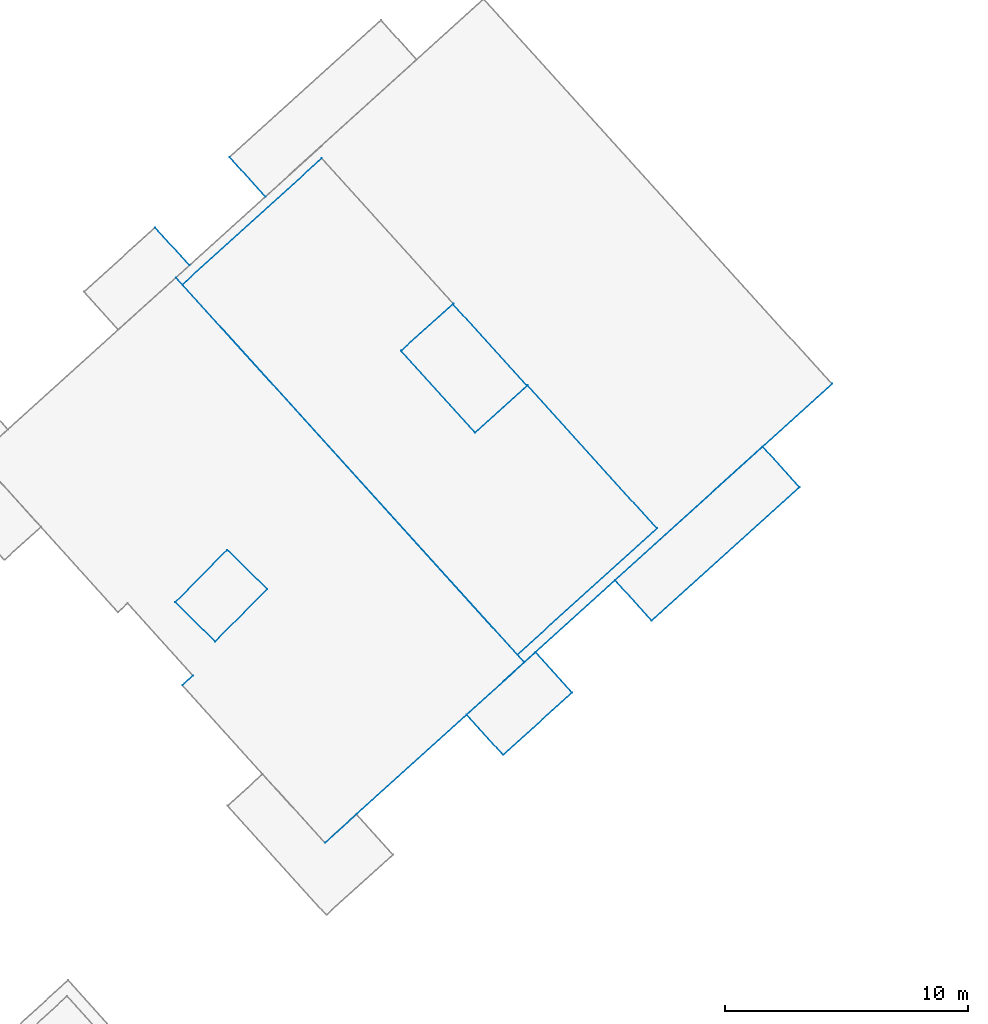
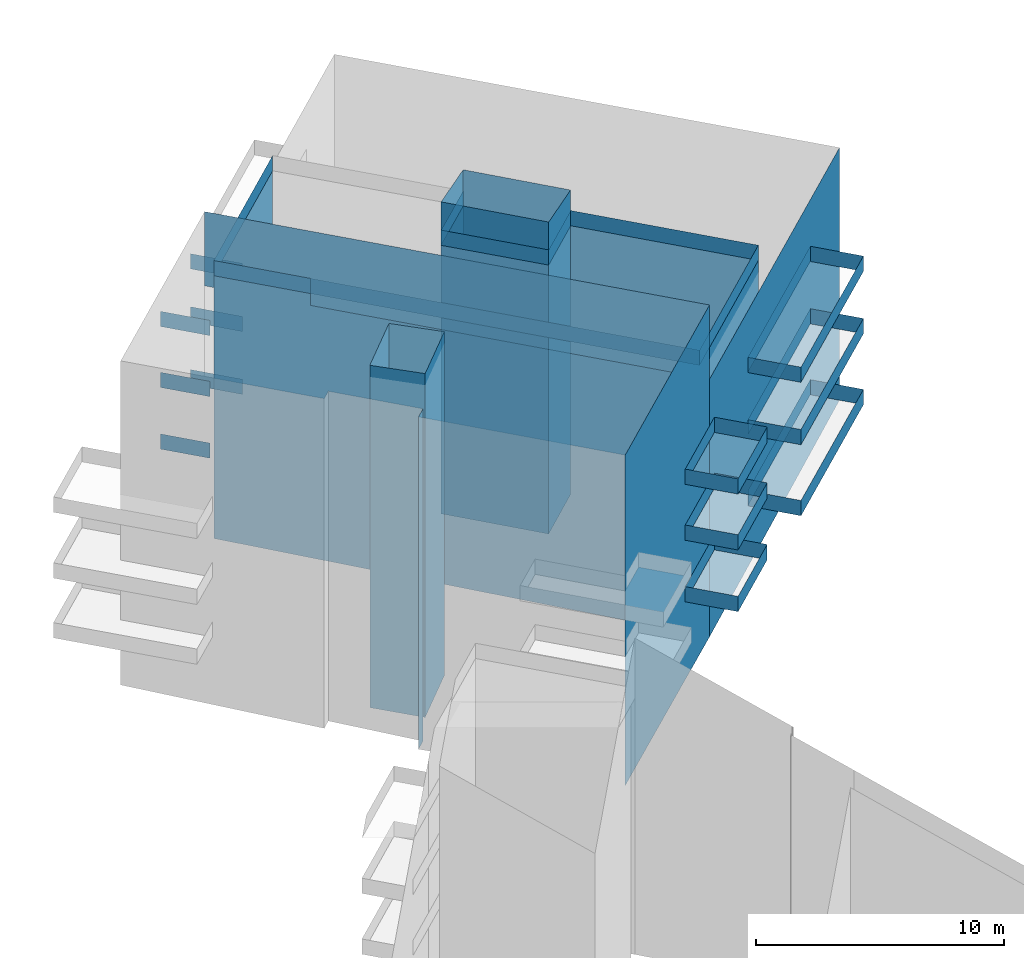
# Not in any storey, part 28 of 136: 93 walls.
"""IFC4 building model written with IfcOpenShell, lengths in metres."""

import ifcopenshell
import ifcopenshell.guid

model = None  # the IFC model being written
_history = None  # IfcOwnerHistory: only IFC2X3 demands one
_inside = {}  # id of a spatial element -> (the spatial element, [elements in it])
_under = {}  # id of a project, library or spatial element -> (it, [spatial elements below it])
_declared = {}  # id of a project -> (the project, [libraries it declares])
_typed = {}  # id of a type object -> (the type object, [elements of that type])
_made_of = {}  # id of a material, layer set ... -> (it, [elements and type objects made of it])


def new_model(schema):
    """Start an empty IFC model of exactly this schema.

    Asked for "IFC4X3", IfcOpenShell would pick the latest addendum, in which some entities
    have other attributes; the version numbers below select the first issue.
    IFC2X3 requires an IfcOwnerHistory on every rooted entity: one is made here for all.
    """
    global model, _history
    if schema == "IFC4X3":
        model = ifcopenshell.file(schema_version=(4, 3, 0, 0))
    else:
        model = ifcopenshell.file(schema=schema)
    _inside.clear()
    _under.clear()
    _declared.clear()
    _typed.clear()
    _made_of.clear()
    _history = None
    if model.schema == "IFC2X3":
        org = make("IfcOrganization", Name="unknown")
        user = make(
            "IfcPersonAndOrganization",
            ThePerson=make("IfcPerson", FamilyName="unknown"),
            TheOrganization=org,
        )
        app = make(
            "IfcApplication",
            ApplicationDeveloper=org,
            Version="unknown",
            ApplicationFullName="unknown",
            ApplicationIdentifier="unknown",
        )
        _history = make(
            "IfcOwnerHistory",
            OwningUser=user,
            OwningApplication=app,
            ChangeAction="ADDED",
            CreationDate=0,
        )
    return model


def make(cls, **values):
    """One entity of the class cls with the attributes given. An attribute that is None is left unset."""
    return model.create_entity(
        cls, **{name: value for name, value in values.items() if value is not None}
    )


def entity(cls, *values):
    """Any entity or typed value of the class cls, its attributes in the order of the schema. None: left unset."""
    e = model.create_entity(cls)
    for i, value in enumerate(values):
        if value is not None:
            e[i] = value
    return e


def rooted(cls, **values):
    """An entity with a GlobalId (a new one), such as an element, a storey or a relation."""
    return make(cls, GlobalId=ifcopenshell.guid.new(), OwnerHistory=_history, **values)


def si_unit(unit_type, name, prefix=None):
    """IfcSIUnit, for example si_unit("LENGTHUNIT", "METRE", prefix="MILLI")."""
    return make("IfcSIUnit", UnitType=unit_type, Prefix=prefix, Name=name)


def converted_unit(unit_type, name, factor, base, dimensions=None, offset=None):
    """IfcConversionBasedUnit, such as the inch: factor (a typed value) times the base unit."""
    return make(
        "IfcConversionBasedUnit"
        if offset is None
        else "IfcConversionBasedUnitWithOffset",
        ConversionOffset=offset,
        Dimensions=None
        if dimensions is None
        else entity("IfcDimensionalExponents", *dimensions),
        UnitType=unit_type,
        Name=name,
        ConversionFactor=make(
            "IfcMeasureWithUnit", ValueComponent=factor, UnitComponent=base
        ),
    )


def assignment(units):
    """IfcUnitAssignment: the units of a project."""
    return None if units is None else make("IfcUnitAssignment", Units=units)


def point(xyz):
    """IfcCartesianPoint."""
    return None if xyz is None else make("IfcCartesianPoint", Coordinates=xyz)


def direction(xyz):
    """IfcDirection."""
    return None if xyz is None else make("IfcDirection", DirectionRatios=xyz)


def frame(location, z_axis=None, x_axis=None):
    """IfcAxis2Placement3D, a coordinate frame: its origin and axes. An axis left out is left unset."""
    return make(
        "IfcAxis2Placement3D",
        Location=point(location),
        Axis=direction(z_axis),
        RefDirection=direction(x_axis),
    )


def origin():
    """The frame at (0, 0, 0) with its axes left unset."""
    return frame((0.0, 0.0, 0.0))


def place(relative_to, where):
    """IfcLocalPlacement: puts the frame where relative to a parent placement (None: the world)."""
    return make(
        "IfcLocalPlacement", PlacementRelTo=relative_to, RelativePlacement=where
    )


def context(
    kind, dimensions, precision=None, world=None, true_north=None, identifier=None
):
    """IfcGeometricRepresentationContext, for example the 3D "Model" context."""
    return make(
        "IfcGeometricRepresentationContext",
        ContextIdentifier=identifier,
        ContextType=kind,
        CoordinateSpaceDimension=dimensions,
        Precision=precision,
        WorldCoordinateSystem=world,
        TrueNorth=true_north,
    )


def subcontext(parent, identifier, kind, view, scale=None):
    """IfcGeometricRepresentationSubContext, for example "Body" below "Model"."""
    return make(
        "IfcGeometricRepresentationSubContext",
        ContextIdentifier=identifier,
        ContextType=kind,
        ParentContext=parent,
        TargetScale=scale,
        TargetView=view,
    )


def project(units=None, contexts=None):
    """IfcProject with its units and contexts."""
    return rooted(
        "IfcProject",
        Name="project",
        RepresentationContexts=contexts,
        UnitsInContext=assignment(units),
    )


def spatial(cls, under=None, at=None, **own):
    """A site, building, storey or space (cls), placed at a placement, below another one or the project."""
    s = rooted(cls, ObjectPlacement=at, **own)
    if under is not None:
        _under.setdefault(under.id(), (under, []))[1].append(s)
    return s


def faces_of(points, faces, orient=None, outer=None):
    """IfcFace entities. A face is a list of loops; a loop is a list of indices into points, from 0.

    orient and outer hold one flag for each loop. By default every Orientation is true, the
    first loop of a face is its IfcFaceOuterBound and the others are IfcFaceBound.
    """
    made = []
    for i, loops in enumerate(faces):
        bounds = []
        for j, loop in enumerate(loops):
            is_outer = j == 0 if outer is None else outer[i][j]
            bounds.append(
                make(
                    "IfcFaceOuterBound" if is_outer else "IfcFaceBound",
                    Bound=make("IfcPolyLoop", Polygon=[points[k] for k in loop]),
                    Orientation=True if orient is None else orient[i][j],
                )
            )
        made.append(make("IfcFace", Bounds=bounds))
    return made


def face_set(faces, orient=None, outer=None):
    """The faces of one IfcConnectedFaceSet. surface_model builds it on its shared points."""
    return ("IfcConnectedFaceSet", faces, orient, outer)


def surface_model(cls, points, shells):
    """IfcFaceBasedSurfaceModel or IfcShellBasedSurfaceModel (cls): surfaces that need not close."""
    shared = [point(p) for p in points]
    made = [make(c, CfsFaces=faces_of(shared, fs, o, b)) for c, fs, o, b in shells]
    if cls == "IfcFaceBasedSurfaceModel":
        return make(cls, FbsmFaces=made)
    return make(cls, SbsmBoundary=made)


def shape(context_of_items, identifier, shape_type, items):
    """IfcShapeRepresentation: the items that make up one representation, for example the "Body"."""
    return make(
        "IfcShapeRepresentation",
        ContextOfItems=context_of_items,
        RepresentationIdentifier=identifier,
        RepresentationType=shape_type,
        Items=items,
    )


def made_of(thing, what):
    """Note that an element or type object is made of a material, layer set ...; save() writes the relation."""
    if what is not None:
        _made_of.setdefault(what.id(), (what, []))[1].append(thing)
    return thing


def element(
    cls,
    number,
    at=None,
    inside=None,
    cuts=None,
    type_object=None,
    material=None,
    context=None,
    identifier="Body",
    shape_type=None,
    held_by="IfcProductDefinitionShape",
    body=None,
    shapes=None,
    **own,
):
    """One element of the class cls, such as IfcWall. Its Tag is "e" and its number.

    at: its placement. inside: the storey or other place that contains it. cuts: it is an
    opening in that element (IfcRelVoidsElement). A single representation is given by context,
    identifier, shape_type and body (its items); several are given by shapes. held_by: the class
    of the entity that holds the representations. save() writes the other relations.
    """
    e = rooted(cls, Tag="e%d" % number, ObjectPlacement=at, **own)
    if body is not None:
        shapes = [shape(context, identifier, shape_type, body)]
    if shapes is not None:
        e.Representation = make(held_by, Representations=shapes)
    if inside is not None:
        _inside.setdefault(inside.id(), (inside, []))[1].append(e)
    if cuts is not None:
        rooted(
            "IfcRelVoidsElement", RelatingBuildingElement=cuts, RelatedOpeningElement=e
        )
    if type_object is not None:
        _typed.setdefault(type_object.id(), (type_object, []))[1].append(e)
    return made_of(e, material)


def aggregate(whole, parts):
    """IfcRelAggregates: a whole, such as a stair, and the parts it consists of."""
    return rooted("IfcRelAggregates", RelatingObject=whole, RelatedObjects=parts)


def save(model, path):
    """Write the relations noted so far, then the file.

    IfcRelAggregates (storeys below a building ...), IfcRelContainedInSpatialStructure (elements
    in a storey), IfcRelDefinesByType, IfcRelAssociatesMaterial and IfcRelDeclares: one each for
    every whole, place, type object, material and project.
    """
    for whole, parts in _under.values():
        aggregate(whole, parts)
    for where, things in _inside.values():
        rooted(
            "IfcRelContainedInSpatialStructure",
            RelatedElements=things,
            RelatingStructure=where,
        )
    for kind, things in _typed.values():
        rooted("IfcRelDefinesByType", RelatedObjects=things, RelatingType=kind)
    for what, things in _made_of.values():
        rooted("IfcRelAssociatesMaterial", RelatedObjects=things, RelatingMaterial=what)
    for by, libraries in _declared.values():
        rooted("IfcRelDeclares", RelatingContext=by, RelatedDefinitions=libraries)
    model.write(path)


model = new_model("IFC4")

# Units and contexts
model_context = context("Model", 3, precision=1e-05, world=origin())
body_context = subcontext(model_context, "Body", "Model", "MODEL_VIEW")
ifc_project = project(units=[converted_unit("PLANEANGLEUNIT", "DEGREE", entity("IfcRatioMeasure", 0.0174532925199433), si_unit("PLANEANGLEUNIT", "RADIAN"), dimensions=[0, 0, 0, 0, 0, 0, 0]), si_unit("AREAUNIT", "SQUARE_METRE"), si_unit("LENGTHUNIT", "METRE")], contexts=[model_context])

# Site, building
site_placement = place(None, origin())
site = spatial("IfcSite", under=ifc_project, at=site_placement, Name="_site")
building_placement = place(site_placement, origin())
building = spatial("IfcBuilding", under=site, at=building_placement, Name="_building")

# Walls
wall_1_placement = place(building_placement, origin())
element("IfcWall", 1, at=wall_1_placement, inside=building, Name="Wall", PredefinedType="NOTDEFINED", context=body_context, shape_type="SurfaceModel", body=[
    surface_model("IfcFaceBasedSurfaceModel", [(84.32, 27.95, 41.92), (82.82, 29.61, 41.92), (82.82, 29.61, 42.67), (84.32, 27.95, 42.67)], [face_set([[[0, 1, 2, 3]]])]),
])
wall_2_placement = place(building_placement, origin())
element("IfcWall", 2, at=wall_2_placement, inside=building, Name="Wall", PredefinedType="NOTDEFINED", context=body_context, shape_type="SurfaceModel", body=[
    surface_model("IfcFaceBasedSurfaceModel", [(87.16, 30.521, 41.92), (84.32, 27.95, 41.92), (84.32, 27.95, 42.67), (87.16, 30.521, 42.67)], [face_set([[[0, 1, 2, 3]]])]),
])
wall_3_placement = place(building_placement, origin())
element("IfcWall", 3, at=wall_3_placement, inside=building, Name="Wall", PredefinedType="NOTDEFINED", context=body_context, shape_type="SurfaceModel", body=[
    surface_model("IfcFaceBasedSurfaceModel", [(85.66, 32.18, 41.92), (87.16, 30.521, 41.92), (87.16, 30.521, 42.67), (85.66, 32.18, 42.67)], [face_set([[[0, 1, 2, 3]]])]),
])
wall_4_placement = place(building_placement, origin())
element("IfcWall", 4, at=wall_4_placement, inside=building, Name="Wall", PredefinedType="NOTDEFINED", context=body_context, shape_type="SurfaceModel", body=[
    surface_model("IfcFaceBasedSurfaceModel", [(82.82, 29.61, 41.92), (85.66, 32.18, 41.92), (85.66, 32.18, 42.67), (82.82, 29.61, 42.67)], [face_set([[[0, 1, 2, 3]]])]),
])
wall_5_placement = place(building_placement, origin())
element("IfcWall", 5, at=wall_5_placement, inside=building, Name="Wall", PredefinedType="NOTDEFINED", context=body_context, shape_type="SurfaceModel", body=[
    surface_model("IfcFaceBasedSurfaceModel", [(84.32, 27.95, 41.92), (82.82, 29.61, 41.92), (82.82, 29.61, 42.67), (84.32, 27.95, 42.67)], [face_set([[[0, 1, 2, 3]]])]),
])
wall_6_placement = place(building_placement, origin())
element("IfcWall", 6, at=wall_6_placement, inside=building, Name="Wall", PredefinedType="NOTDEFINED", context=body_context, shape_type="SurfaceModel", body=[
    surface_model("IfcFaceBasedSurfaceModel", [(87.16, 30.521, 41.92), (84.32, 27.95, 41.92), (84.32, 27.95, 42.67), (87.16, 30.521, 42.67)], [face_set([[[0, 1, 2, 3]]])]),
])
wall_7_placement = place(building_placement, origin())
element("IfcWall", 7, at=wall_7_placement, inside=building, Name="Wall", PredefinedType="NOTDEFINED", context=body_context, shape_type="SurfaceModel", body=[
    surface_model("IfcFaceBasedSurfaceModel", [(85.66, 32.18, 41.92), (87.16, 30.521, 41.92), (87.16, 30.521, 42.67), (85.66, 32.18, 42.67)], [face_set([[[0, 1, 2, 3]]])]),
])
wall_8_placement = place(building_placement, origin())
element("IfcWall", 8, at=wall_8_placement, inside=building, Name="Wall", PredefinedType="NOTDEFINED", context=body_context, shape_type="SurfaceModel", body=[
    surface_model("IfcFaceBasedSurfaceModel", [(84.91, 32.08, 51.32), (71.11, 47.32, 51.32), (71.11, 47.32, 52.07), (84.91, 32.08, 52.07)], [face_set([[[0, 1, 2, 3]]])]),
])
wall_9_placement = place(building_placement, origin())
element("IfcWall", 9, at=wall_9_placement, inside=building, Name="Wall", PredefinedType="NOTDEFINED", context=body_context, shape_type="SurfaceModel", body=[
    surface_model("IfcFaceBasedSurfaceModel", [(90.65, 37.28, 51.32), (84.91, 32.08, 51.32), (84.91, 32.08, 52.07), (90.65, 37.28, 52.07)], [face_set([[[0, 1, 2, 3]]])]),
])
wall_10_placement = place(building_placement, origin())
element("IfcWall", 10, at=wall_10_placement, inside=building, Name="Wall", PredefinedType="NOTDEFINED", context=body_context, shape_type="SurfaceModel", body=[
    surface_model("IfcFaceBasedSurfaceModel", [(85.32, 43.17, 51.32), (90.65, 37.28, 51.32), (90.65, 37.28, 52.07), (85.32, 43.17, 52.07)], [face_set([[[0, 1, 2, 3]]])]),
])
wall_11_placement = place(building_placement, origin())
element("IfcWall", 11, at=wall_11_placement, inside=building, Name="Wall", PredefinedType="NOTDEFINED", context=body_context, shape_type="SurfaceModel", body=[
    surface_model("IfcFaceBasedSurfaceModel", [(83.17, 41.22, 51.32), (85.32, 43.17, 51.32), (85.32, 43.17, 52.07), (83.17, 41.22, 52.07)], [face_set([[[0, 1, 2, 3]]])]),
])
wall_12_placement = place(building_placement, origin())
element("IfcWall", 12, at=wall_12_placement, inside=building, Name="Wall", PredefinedType="NOTDEFINED", context=body_context, shape_type="SurfaceModel", body=[
    surface_model("IfcFaceBasedSurfaceModel", [(80.11, 44.59, 51.32), (83.17, 41.22, 51.32), (83.17, 41.22, 52.07), (80.11, 44.59, 52.07)], [face_set([[[0, 1, 2, 3]]])]),
])
wall_13_placement = place(building_placement, origin())
element("IfcWall", 13, at=wall_13_placement, inside=building, Name="Wall", PredefinedType="NOTDEFINED", context=body_context, shape_type="SurfaceModel", body=[
    surface_model("IfcFaceBasedSurfaceModel", [(82.27, 46.54, 51.32), (80.11, 44.59, 51.32), (80.11, 44.59, 52.07), (82.27, 46.54, 52.07)], [face_set([[[0, 1, 2, 3]]])]),
])
wall_14_placement = place(building_placement, origin())
element("IfcWall", 14, at=wall_14_placement, inside=building, Name="Wall", PredefinedType="NOTDEFINED", context=body_context, shape_type="SurfaceModel", body=[
    surface_model("IfcFaceBasedSurfaceModel", [(71.11, 47.32, 51.32), (76.85, 52.521, 51.32), (76.85, 52.521, 52.07), (71.11, 47.32, 52.07)], [face_set([[[0, 1, 2, 3]]])]),
])
wall_15_placement = place(building_placement, origin())
element("IfcWall", 15, at=wall_15_placement, inside=building, Name="Wall", PredefinedType="NOTDEFINED", context=body_context, shape_type="SurfaceModel", body=[
    surface_model("IfcFaceBasedSurfaceModel", [(84.91, 32.08, 51.32), (71.11, 47.32, 51.32), (71.11, 47.32, 52.07), (84.91, 32.08, 52.07)], [face_set([[[0, 1, 2, 3]]])]),
])
wall_16_placement = place(building_placement, origin())
element("IfcWall", 16, at=wall_16_placement, inside=building, Name="Wall", PredefinedType="NOTDEFINED", context=body_context, shape_type="SurfaceModel", body=[
    surface_model("IfcFaceBasedSurfaceModel", [(90.65, 37.28, 51.32), (84.91, 32.08, 51.32), (84.91, 32.08, 52.07), (90.65, 37.28, 52.07)], [face_set([[[0, 1, 2, 3]]])]),
])
wall_17_placement = place(building_placement, origin())
element("IfcWall", 17, at=wall_17_placement, inside=building, Name="Wall", PredefinedType="NOTDEFINED", context=body_context, shape_type="SurfaceModel", body=[
    surface_model("IfcFaceBasedSurfaceModel", [(85.32, 43.17, 51.32), (90.65, 37.28, 51.32), (90.65, 37.28, 52.07), (85.32, 43.17, 52.07)], [face_set([[[0, 1, 2, 3]]])]),
])
wall_18_placement = place(building_placement, origin())
element("IfcWall", 18, at=wall_18_placement, inside=building, Name="Wall", PredefinedType="NOTDEFINED", context=body_context, shape_type="SurfaceModel", body=[
    surface_model("IfcFaceBasedSurfaceModel", [(83.17, 41.22, 51.32), (85.32, 43.17, 51.32), (85.32, 43.17, 52.07), (83.17, 41.22, 52.07)], [face_set([[[0, 1, 2, 3]]])]),
])
wall_19_placement = place(building_placement, origin())
element("IfcWall", 19, at=wall_19_placement, inside=building, Name="Wall", PredefinedType="NOTDEFINED", context=body_context, shape_type="SurfaceModel", body=[
    surface_model("IfcFaceBasedSurfaceModel", [(80.11, 44.59, 51.32), (83.17, 41.22, 51.32), (83.17, 41.22, 52.07), (80.11, 44.59, 52.07)], [face_set([[[0, 1, 2, 3]]])]),
])
wall_20_placement = place(building_placement, origin())
element("IfcWall", 20, at=wall_20_placement, inside=building, Name="Wall", PredefinedType="NOTDEFINED", context=body_context, shape_type="SurfaceModel", body=[
    surface_model("IfcFaceBasedSurfaceModel", [(82.27, 46.54, 51.32), (80.11, 44.59, 51.32), (80.11, 44.59, 52.07), (82.27, 46.54, 52.07)], [face_set([[[0, 1, 2, 3]]])]),
])
wall_21_placement = place(building_placement, origin())
element("IfcWall", 21, at=wall_21_placement, inside=building, Name="Wall", PredefinedType="NOTDEFINED", context=body_context, shape_type="SurfaceModel", body=[
    surface_model("IfcFaceBasedSurfaceModel", [(85.3, 43.15, 53.1), (83.17, 41.22, 53.44), (83.17, 41.22, 38.093), (85.3, 43.15, 38.115)], [face_set([[[0, 1, 2, 3]]])]),
])
wall_22_placement = place(building_placement, origin())
element("IfcWall", 22, at=wall_22_placement, inside=building, Name="Wall", PredefinedType="NOTDEFINED", context=body_context, shape_type="SurfaceModel", body=[
    surface_model("IfcFaceBasedSurfaceModel", [(71.11, 47.32, 51.32), (76.85, 52.521, 51.32), (76.85, 52.521, 52.07), (71.11, 47.32, 52.07)], [face_set([[[0, 1, 2, 3]]])]),
])
wall_23_placement = place(building_placement, origin())
element("IfcWall", 23, at=wall_23_placement, inside=building, Name="Wall", PredefinedType="NOTDEFINED", context=body_context, shape_type="SurfaceModel", body=[
    surface_model("IfcFaceBasedSurfaceModel", [(85.32, 43.17, 51.32), (90.65, 37.28, 51.32), (90.65, 37.28, 38.17), (85.32, 43.17, 38.115)], [face_set([[[0, 1, 2, 3]]])]),
])
wall_24_placement = place(building_placement, origin())
element("IfcWall", 24, at=wall_24_placement, inside=building, Name="Wall", PredefinedType="NOTDEFINED", context=body_context, shape_type="SurfaceModel", body=[
    surface_model("IfcFaceBasedSurfaceModel", [(80.11, 44.59, 51.32), (83.17, 41.22, 51.32), (83.17, 41.22, 38.093), (80.11, 44.59, 38.117)], [face_set([[[0, 1, 2, 3]]])]),
])
wall_25_placement = place(building_placement, origin())
element("IfcWall", 25, at=wall_25_placement, inside=building, Name="Wall", PredefinedType="NOTDEFINED", context=body_context, shape_type="SurfaceModel", body=[
    surface_model("IfcFaceBasedSurfaceModel", [(72.45, 32.61, 54.96), (70.81, 34.23, 54.96), (70.81, 34.23, 38.119), (72.45, 32.61, 38.043)], [face_set([[[0, 1, 2, 3]]])]),
])
for number, where, name in (
    (26, (0.0, 0.0, 0.0), "Wall"),
    (27, (0.0, 0.0, 0.0), "Wall"),
):
    element("IfcWall", number, at=place(building_placement, frame(where)), inside=building, Name=name, PredefinedType="NOTDEFINED", context=body_context, shape_type="SurfaceModel", body=[
        surface_model("IfcFaceBasedSurfaceModel", [(74.53, 50.94, 47.79), (73.06, 52.57, 47.79), (73.06, 52.57, 48.54), (74.53, 50.94, 48.54)], [face_set([[[0, 1, 2, 3]]])]),
    ])
for number, where, name in (
    (28, (0.0, 0.0, 0.0), "Wall"),
    (29, (0.0, 0.0, 0.0), "Wall"),
):
    element("IfcWall", number, at=place(building_placement, frame(where)), inside=building, Name=name, PredefinedType="NOTDEFINED", context=body_context, shape_type="SurfaceModel", body=[
        surface_model("IfcFaceBasedSurfaceModel", [(69.99, 49.67, 41.76), (71.4, 48.11, 41.76), (71.4, 48.11, 42.51), (69.99, 49.67, 42.51)], [face_set([[[0, 1, 2, 3]]])]),
    ])
wall_26_placement = place(building_placement, origin())
element("IfcWall", 30, at=wall_26_placement, inside=building, Name="Wall", PredefinedType="NOTDEFINED", context=body_context, shape_type="SurfaceModel", body=[
    surface_model("IfcFaceBasedSurfaceModel", [(82.82, 29.61, 44.95), (85.66, 32.18, 44.95), (85.66, 32.18, 45.7), (82.82, 29.61, 45.7)], [face_set([[[0, 1, 2, 3]]])]),
])
wall_27_placement = place(building_placement, origin())
element("IfcWall", 31, at=wall_27_placement, inside=building, Name="Wall", PredefinedType="NOTDEFINED", context=body_context, shape_type="SurfaceModel", body=[
    surface_model("IfcFaceBasedSurfaceModel", [(84.32, 27.95, 44.95), (82.82, 29.61, 44.95), (82.82, 29.61, 45.7), (84.32, 27.95, 45.7)], [face_set([[[0, 1, 2, 3]]])]),
])
wall_28_placement = place(building_placement, origin())
element("IfcWall", 32, at=wall_28_placement, inside=building, Name="Wall", PredefinedType="NOTDEFINED", context=body_context, shape_type="SurfaceModel", body=[
    surface_model("IfcFaceBasedSurfaceModel", [(87.16, 30.521, 44.95), (84.32, 27.95, 44.95), (84.32, 27.95, 45.7), (87.16, 30.521, 45.7)], [face_set([[[0, 1, 2, 3]]])]),
])
wall_29_placement = place(building_placement, origin())
element("IfcWall", 33, at=wall_29_placement, inside=building, Name="Wall", PredefinedType="NOTDEFINED", context=body_context, shape_type="SurfaceModel", body=[
    surface_model("IfcFaceBasedSurfaceModel", [(85.66, 32.18, 44.95), (87.16, 30.521, 44.95), (87.16, 30.521, 45.7), (85.66, 32.18, 45.7)], [face_set([[[0, 1, 2, 3]]])]),
])
wall_30_placement = place(building_placement, origin())
element("IfcWall", 34, at=wall_30_placement, inside=building, Name="Wall", PredefinedType="NOTDEFINED", context=body_context, shape_type="SurfaceModel", body=[
    surface_model("IfcFaceBasedSurfaceModel", [(82.82, 29.61, 44.95), (85.66, 32.18, 44.95), (85.66, 32.18, 45.7), (82.82, 29.61, 45.7)], [face_set([[[0, 1, 2, 3]]])]),
])
wall_31_placement = place(building_placement, origin())
element("IfcWall", 35, at=wall_31_placement, inside=building, Name="Wall", PredefinedType="NOTDEFINED", context=body_context, shape_type="SurfaceModel", body=[
    surface_model("IfcFaceBasedSurfaceModel", [(84.32, 27.95, 44.95), (82.82, 29.61, 44.95), (82.82, 29.61, 45.7), (84.32, 27.95, 45.7)], [face_set([[[0, 1, 2, 3]]])]),
])
wall_32_placement = place(building_placement, origin())
element("IfcWall", 36, at=wall_32_placement, inside=building, Name="Wall", PredefinedType="NOTDEFINED", context=body_context, shape_type="SurfaceModel", body=[
    surface_model("IfcFaceBasedSurfaceModel", [(87.16, 30.521, 44.95), (84.32, 27.95, 44.95), (84.32, 27.95, 45.7), (87.16, 30.521, 45.7)], [face_set([[[0, 1, 2, 3]]])]),
])
wall_33_placement = place(building_placement, origin())
element("IfcWall", 37, at=wall_33_placement, inside=building, Name="Wall", PredefinedType="NOTDEFINED", context=body_context, shape_type="SurfaceModel", body=[
    surface_model("IfcFaceBasedSurfaceModel", [(85.66, 32.18, 44.95), (87.16, 30.521, 44.95), (87.16, 30.521, 45.7), (85.66, 32.18, 45.7)], [face_set([[[0, 1, 2, 3]]])]),
])
wall_34_placement = place(building_placement, origin())
element("IfcWall", 38, at=wall_34_placement, inside=building, Name="Wall", PredefinedType="NOTDEFINED", context=body_context, shape_type="SurfaceModel", body=[
    surface_model("IfcFaceBasedSurfaceModel", [(90.65, 37.28, 51.32), (84.91, 32.08, 51.32), (84.91, 32.08, 38.057), (90.65, 37.28, 38.17)], [face_set([[[0, 1, 2, 3]]])]),
])
wall_35_placement = place(building_placement, origin())
element("IfcWall", 39, at=wall_35_placement, inside=building, Name="Wall", PredefinedType="NOTDEFINED", context=body_context, shape_type="SurfaceModel", body=[
    surface_model("IfcFaceBasedSurfaceModel", [(82.27, 46.54, 51.32), (80.11, 44.59, 51.32), (80.11, 44.59, 38.117), (82.27, 46.54, 38.106)], [face_set([[[0, 1, 2, 3]]])]),
])
wall_36_placement = place(building_placement, origin())
element("IfcWall", 40, at=wall_36_placement, inside=building, Name="Wall", PredefinedType="NOTDEFINED", context=body_context, shape_type="SurfaceModel", body=[
    surface_model("IfcFaceBasedSurfaceModel", [(71.11, 47.32, 51.32), (76.85, 52.521, 51.32), (76.85, 52.521, 38.365), (71.11, 47.32, 38.397)], [face_set([[[0, 1, 2, 3]]])]),
])
for number, where, name in (
    (41, (0.0, 0.0, 0.0), "Wall"),
    (42, (0.0, 0.0, 0.0), "Wall"),
):
    element("IfcWall", number, at=place(building_placement, frame(where)), inside=building, Name=name, PredefinedType="NOTDEFINED", context=body_context, shape_type="SurfaceModel", body=[
        surface_model("IfcFaceBasedSurfaceModel", [(69.99, 49.67, 44.79), (71.4, 48.11, 44.79), (71.4, 48.11, 45.54), (69.99, 49.67, 45.54)], [face_set([[[0, 1, 2, 3]]])]),
    ])
wall_37_placement = place(building_placement, origin())
element("IfcWall", 43, at=wall_37_placement, inside=building, Name="Wall", PredefinedType="NOTDEFINED", context=body_context, shape_type="SurfaceModel", body=[
    surface_model("IfcFaceBasedSurfaceModel", [(74.59, 34.771, 54.96), (72.45, 32.61, 54.96), (72.45, 32.61, 38.043), (74.59, 34.771, 38.038)], [face_set([[[0, 1, 2, 3]]])]),
])
wall_38_placement = place(building_placement, origin())
element("IfcWall", 44, at=wall_38_placement, inside=building, Name="Wall", PredefinedType="NOTDEFINED", context=body_context, shape_type="SurfaceModel", body=[
    surface_model("IfcFaceBasedSurfaceModel", [(72.95, 36.39, 54.96), (74.59, 34.771, 54.96), (74.59, 34.771, 38.038), (72.95, 36.39, 38.113)], [face_set([[[0, 1, 2, 3]]])]),
])
wall_39_placement = place(building_placement, origin())
element("IfcWall", 45, at=wall_39_placement, inside=building, Name="Wall", PredefinedType="NOTDEFINED", context=body_context, shape_type="SurfaceModel", body=[
    surface_model("IfcFaceBasedSurfaceModel", [(70.81, 34.23, 54.96), (72.95, 36.39, 54.96), (72.95, 36.39, 38.113), (70.81, 34.23, 38.119)], [face_set([[[0, 1, 2, 3]]])]),
])
wall_40_placement = place(building_placement, origin())
element("IfcWall", 46, at=wall_40_placement, inside=building, Name="Wall", PredefinedType="NOTDEFINED", context=body_context, shape_type="SurfaceModel", body=[
    surface_model("IfcFaceBasedSurfaceModel", [(82.25, 46.521, 53.12), (85.3, 43.15, 53.1), (85.3, 43.15, 38.115), (82.25, 46.521, 38.107)], [face_set([[[0, 1, 2, 3]]])]),
])
wall_41_placement = place(building_placement, origin())
element("IfcWall", 47, at=wall_41_placement, inside=building, Name="Wall", PredefinedType="NOTDEFINED", context=body_context, shape_type="SurfaceModel", body=[
    surface_model("IfcFaceBasedSurfaceModel", [(80.11, 44.59, 53.46), (82.25, 46.521, 53.12), (82.25, 46.521, 38.107), (80.11, 44.59, 38.117)], [face_set([[[0, 1, 2, 3]]])]),
])
wall_42_placement = place(building_placement, origin())
element("IfcWall", 48, at=wall_42_placement, inside=building, Name="Wall", PredefinedType="NOTDEFINED", context=body_context, shape_type="SurfaceModel", body=[
    surface_model("IfcFaceBasedSurfaceModel", [(83.17, 41.22, 53.44), (80.11, 44.59, 53.46), (80.11, 44.59, 38.117), (83.17, 41.22, 38.093)], [face_set([[[0, 1, 2, 3]]])]),
])
wall_43_placement = place(building_placement, origin())
element("IfcWall", 49, at=wall_43_placement, inside=building, Name="Wall", PredefinedType="NOTDEFINED", context=body_context, shape_type="SurfaceModel", body=[
    surface_model("IfcFaceBasedSurfaceModel", [(83.17, 41.22, 51.32), (85.32, 43.17, 51.32), (85.32, 43.17, 38.115), (83.17, 41.22, 38.093)], [face_set([[[0, 1, 2, 3]]])]),
])
wall_44_placement = place(building_placement, origin())
element("IfcWall", 50, at=wall_44_placement, inside=building, Name="Wall", PredefinedType="NOTDEFINED", context=body_context, shape_type="SurfaceModel", body=[
    surface_model("IfcFaceBasedSurfaceModel", [(84.91, 32.08, 51.32), (71.11, 47.32, 51.32), (71.11, 47.32, 38.397), (84.91, 32.08, 38.057)], [face_set([[[0, 1, 2, 3]]])]),
])
for number, where, name in (
    (51, (0.0, 0.0, 0.0), "Wall"),
    (52, (0.0, 0.0, 0.0), "Wall"),
):
    element("IfcWall", number, at=place(building_placement, frame(where)), inside=building, Name=name, PredefinedType="NOTDEFINED", context=body_context, shape_type="SurfaceModel", body=[
        surface_model("IfcFaceBasedSurfaceModel", [(74.53, 50.94, 42.09), (73.06, 52.57, 42.09), (73.06, 52.57, 42.84), (74.53, 50.94, 42.84)], [face_set([[[0, 1, 2, 3]]])]),
    ])
wall_45_placement = place(building_placement, origin())
element("IfcWall", 53, at=wall_45_placement, inside=building, Name="Wall", PredefinedType="NOTDEFINED", context=body_context, shape_type="SurfaceModel", body=[
    surface_model("IfcFaceBasedSurfaceModel", [(90.44, 33.48, 44.63), (88.93, 35.15, 44.63), (88.93, 35.15, 45.38), (90.44, 33.48, 45.38)], [face_set([[[0, 1, 2, 3]]])]),
])
wall_46_placement = place(building_placement, origin())
element("IfcWall", 54, at=wall_46_placement, inside=building, Name="Wall", PredefinedType="NOTDEFINED", context=body_context, shape_type="SurfaceModel", body=[
    surface_model("IfcFaceBasedSurfaceModel", [(96.52, 38.98, 44.63), (90.44, 33.48, 44.63), (90.44, 33.48, 45.38), (96.52, 38.98, 45.38)], [face_set([[[0, 1, 2, 3]]])]),
])
wall_47_placement = place(building_placement, origin())
element("IfcWall", 55, at=wall_47_placement, inside=building, Name="Wall", PredefinedType="NOTDEFINED", context=body_context, shape_type="SurfaceModel", body=[
    surface_model("IfcFaceBasedSurfaceModel", [(95.01, 40.65, 44.63), (96.52, 38.98, 44.63), (96.52, 38.98, 45.38), (95.01, 40.65, 45.38)], [face_set([[[0, 1, 2, 3]]])]),
])
wall_48_placement = place(building_placement, origin())
element("IfcWall", 56, at=wall_48_placement, inside=building, Name="Wall", PredefinedType="NOTDEFINED", context=body_context, shape_type="SurfaceModel", body=[
    surface_model("IfcFaceBasedSurfaceModel", [(88.93, 35.15, 44.63), (95.01, 40.65, 44.63), (95.01, 40.65, 45.38), (88.93, 35.15, 45.38)], [face_set([[[0, 1, 2, 3]]])]),
])
wall_49_placement = place(building_placement, origin())
element("IfcWall", 57, at=wall_49_placement, inside=building, Name="Wall", PredefinedType="NOTDEFINED", context=body_context, shape_type="SurfaceModel", body=[
    surface_model("IfcFaceBasedSurfaceModel", [(90.44, 33.48, 44.63), (88.93, 35.15, 44.63), (88.93, 35.15, 45.38), (90.44, 33.48, 45.38)], [face_set([[[0, 1, 2, 3]]])]),
])
wall_50_placement = place(building_placement, origin())
element("IfcWall", 58, at=wall_50_placement, inside=building, Name="Wall", PredefinedType="NOTDEFINED", context=body_context, shape_type="SurfaceModel", body=[
    surface_model("IfcFaceBasedSurfaceModel", [(96.52, 38.98, 44.63), (90.44, 33.48, 44.63), (90.44, 33.48, 45.38), (96.52, 38.98, 45.38)], [face_set([[[0, 1, 2, 3]]])]),
])
wall_51_placement = place(building_placement, origin())
element("IfcWall", 59, at=wall_51_placement, inside=building, Name="Wall", PredefinedType="NOTDEFINED", context=body_context, shape_type="SurfaceModel", body=[
    surface_model("IfcFaceBasedSurfaceModel", [(95.01, 40.65, 44.63), (96.52, 38.98, 44.63), (96.52, 38.98, 45.38), (95.01, 40.65, 45.38)], [face_set([[[0, 1, 2, 3]]])]),
])
wall_52_placement = place(building_placement, origin())
element("IfcWall", 60, at=wall_52_placement, inside=building, Name="Wall", PredefinedType="NOTDEFINED", context=body_context, shape_type="SurfaceModel", body=[
    surface_model("IfcFaceBasedSurfaceModel", [(88.93, 35.15, 44.63), (95.01, 40.65, 44.63), (95.01, 40.65, 45.38), (88.93, 35.15, 45.38)], [face_set([[[0, 1, 2, 3]]])]),
])
wall_53_placement = place(building_placement, origin())
element("IfcWall", 61, at=wall_53_placement, inside=building, Name="Wall", PredefinedType="NOTDEFINED", context=body_context, shape_type="SurfaceModel", body=[
    surface_model("IfcFaceBasedSurfaceModel", [(90.44, 33.48, 41.14), (88.93, 35.15, 41.14), (88.93, 35.15, 41.89), (90.44, 33.48, 41.89)], [face_set([[[0, 1, 2, 3]]])]),
])
wall_54_placement = place(building_placement, origin())
element("IfcWall", 62, at=wall_54_placement, inside=building, Name="Wall", PredefinedType="NOTDEFINED", context=body_context, shape_type="SurfaceModel", body=[
    surface_model("IfcFaceBasedSurfaceModel", [(96.52, 38.98, 41.14), (90.44, 33.48, 41.14), (90.44, 33.48, 41.89), (96.52, 38.98, 41.89)], [face_set([[[0, 1, 2, 3]]])]),
])
wall_55_placement = place(building_placement, origin())
element("IfcWall", 63, at=wall_55_placement, inside=building, Name="Wall", PredefinedType="NOTDEFINED", context=body_context, shape_type="SurfaceModel", body=[
    surface_model("IfcFaceBasedSurfaceModel", [(95.01, 40.65, 41.14), (96.52, 38.98, 41.14), (96.52, 38.98, 41.89), (95.01, 40.65, 41.89)], [face_set([[[0, 1, 2, 3]]])]),
])
wall_56_placement = place(building_placement, origin())
element("IfcWall", 64, at=wall_56_placement, inside=building, Name="Wall", PredefinedType="NOTDEFINED", context=body_context, shape_type="SurfaceModel", body=[
    surface_model("IfcFaceBasedSurfaceModel", [(88.93, 35.15, 41.14), (95.01, 40.65, 41.14), (95.01, 40.65, 41.89), (88.93, 35.15, 41.89)], [face_set([[[0, 1, 2, 3]]])]),
])
wall_57_placement = place(building_placement, origin())
element("IfcWall", 65, at=wall_57_placement, inside=building, Name="Wall", PredefinedType="NOTDEFINED", context=body_context, shape_type="SurfaceModel", body=[
    surface_model("IfcFaceBasedSurfaceModel", [(90.44, 33.48, 41.14), (88.93, 35.15, 41.14), (88.93, 35.15, 41.89), (90.44, 33.48, 41.89)], [face_set([[[0, 1, 2, 3]]])]),
])
wall_58_placement = place(building_placement, origin())
element("IfcWall", 66, at=wall_58_placement, inside=building, Name="Wall", PredefinedType="NOTDEFINED", context=body_context, shape_type="SurfaceModel", body=[
    surface_model("IfcFaceBasedSurfaceModel", [(96.52, 38.98, 41.14), (90.44, 33.48, 41.14), (90.44, 33.48, 41.89), (96.52, 38.98, 41.89)], [face_set([[[0, 1, 2, 3]]])]),
])
wall_59_placement = place(building_placement, origin())
element("IfcWall", 67, at=wall_59_placement, inside=building, Name="Wall", PredefinedType="NOTDEFINED", context=body_context, shape_type="SurfaceModel", body=[
    surface_model("IfcFaceBasedSurfaceModel", [(95.01, 40.65, 41.14), (96.52, 38.98, 41.14), (96.52, 38.98, 41.89), (95.01, 40.65, 41.89)], [face_set([[[0, 1, 2, 3]]])]),
])
wall_60_placement = place(building_placement, origin())
element("IfcWall", 68, at=wall_60_placement, inside=building, Name="Wall", PredefinedType="NOTDEFINED", context=body_context, shape_type="SurfaceModel", body=[
    surface_model("IfcFaceBasedSurfaceModel", [(88.93, 35.15, 41.14), (95.01, 40.65, 41.14), (95.01, 40.65, 41.89), (88.93, 35.15, 41.89)], [face_set([[[0, 1, 2, 3]]])]),
])
wall_61_placement = place(building_placement, origin())
element("IfcWall", 69, at=wall_61_placement, inside=building, Name="Wall", PredefinedType="NOTDEFINED", context=body_context, shape_type="SurfaceModel", body=[
    surface_model("IfcFaceBasedSurfaceModel", [(70.85, 47.61, 54.39), (85.19, 31.76, 54.39), (85.19, 31.76, 50.74), (70.85, 47.61, 50.74)], [face_set([[[0, 1, 2, 3]]])]),
])
wall_62_placement = place(building_placement, origin())
element("IfcWall", 70, at=wall_62_placement, inside=building, Name="Wall", PredefinedType="NOTDEFINED", context=body_context, shape_type="SurfaceModel", body=[
    surface_model("IfcFaceBasedSurfaceModel", [(71.11, 30.82, 54.39), (71.55, 31.22, 54.39), (71.55, 31.22, 38.035), (71.11, 30.82, 38.037)], [face_set([[[0, 1, 2, 3]]])]),
])
wall_63_placement = place(building_placement, origin())
element("IfcWall", 71, at=wall_63_placement, inside=building, Name="Wall", PredefinedType="NOTDEFINED", context=body_context, shape_type="SurfaceModel", body=[
    surface_model("IfcFaceBasedSurfaceModel", [(85.19, 31.76, 54.39), (76.98, 24.33, 54.39), (76.98, 24.33, 38.13), (85.19, 31.76, 38.064)], [face_set([[[0, 1, 2, 3]]])]),
])
wall_64_placement = place(building_placement, origin())
element("IfcWall", 72, at=wall_64_placement, inside=building, Name="Wall", PredefinedType="NOTDEFINED", context=body_context, shape_type="SurfaceModel", body=[
    surface_model("IfcFaceBasedSurfaceModel", [(97.86, 43.23, 50.74), (85.19, 31.76, 50.74), (85.19, 31.76, 38.064), (97.86, 43.23, 38.313)], [face_set([[[0, 1, 2, 3]]])]),
])
wall_65_placement = place(building_placement, origin())
element("IfcWall", 73, at=wall_65_placement, inside=building, Name="Wall", PredefinedType="NOTDEFINED", context=body_context, shape_type="SurfaceModel", body=[
    surface_model("IfcFaceBasedSurfaceModel", [(82.82, 29.61, 47.7), (85.66, 32.18, 47.7), (85.66, 32.18, 48.45), (82.82, 29.61, 48.45)], [face_set([[[0, 1, 2, 3]]])]),
])
wall_66_placement = place(building_placement, origin())
element("IfcWall", 74, at=wall_66_placement, inside=building, Name="Wall", PredefinedType="NOTDEFINED", context=body_context, shape_type="SurfaceModel", body=[
    surface_model("IfcFaceBasedSurfaceModel", [(84.32, 27.95, 47.7), (82.82, 29.61, 47.7), (82.82, 29.61, 48.45), (84.32, 27.95, 48.45)], [face_set([[[0, 1, 2, 3]]])]),
])
wall_67_placement = place(building_placement, origin())
element("IfcWall", 75, at=wall_67_placement, inside=building, Name="Wall", PredefinedType="NOTDEFINED", context=body_context, shape_type="SurfaceModel", body=[
    surface_model("IfcFaceBasedSurfaceModel", [(87.16, 30.521, 47.7), (84.32, 27.95, 47.7), (84.32, 27.95, 48.45), (87.16, 30.521, 48.45)], [face_set([[[0, 1, 2, 3]]])]),
])
wall_68_placement = place(building_placement, origin())
element("IfcWall", 76, at=wall_68_placement, inside=building, Name="Wall", PredefinedType="NOTDEFINED", context=body_context, shape_type="SurfaceModel", body=[
    surface_model("IfcFaceBasedSurfaceModel", [(85.66, 32.18, 47.7), (87.16, 30.521, 47.7), (87.16, 30.521, 48.45), (85.66, 32.18, 48.45)], [face_set([[[0, 1, 2, 3]]])]),
])
wall_69_placement = place(building_placement, origin())
element("IfcWall", 77, at=wall_69_placement, inside=building, Name="Wall", PredefinedType="NOTDEFINED", context=body_context, shape_type="SurfaceModel", body=[
    surface_model("IfcFaceBasedSurfaceModel", [(82.82, 29.61, 47.7), (85.66, 32.18, 47.7), (85.66, 32.18, 48.45), (82.82, 29.61, 48.45)], [face_set([[[0, 1, 2, 3]]])]),
])
wall_70_placement = place(building_placement, origin())
element("IfcWall", 78, at=wall_70_placement, inside=building, Name="Wall", PredefinedType="NOTDEFINED", context=body_context, shape_type="SurfaceModel", body=[
    surface_model("IfcFaceBasedSurfaceModel", [(84.32, 27.95, 47.7), (82.82, 29.61, 47.7), (82.82, 29.61, 48.45), (84.32, 27.95, 48.45)], [face_set([[[0, 1, 2, 3]]])]),
])
wall_71_placement = place(building_placement, origin())
element("IfcWall", 79, at=wall_71_placement, inside=building, Name="Wall", PredefinedType="NOTDEFINED", context=body_context, shape_type="SurfaceModel", body=[
    surface_model("IfcFaceBasedSurfaceModel", [(87.16, 30.521, 47.7), (84.32, 27.95, 47.7), (84.32, 27.95, 48.45), (87.16, 30.521, 48.45)], [face_set([[[0, 1, 2, 3]]])]),
])
wall_72_placement = place(building_placement, origin())
element("IfcWall", 80, at=wall_72_placement, inside=building, Name="Wall", PredefinedType="NOTDEFINED", context=body_context, shape_type="SurfaceModel", body=[
    surface_model("IfcFaceBasedSurfaceModel", [(85.66, 32.18, 47.7), (87.16, 30.521, 47.7), (87.16, 30.521, 48.45), (85.66, 32.18, 48.45)], [face_set([[[0, 1, 2, 3]]])]),
])
for number, where, name in (
    (81, (0.0, 0.0, 0.0), "Wall"),
    (82, (0.0, 0.0, 0.0), "Wall"),
):
    element("IfcWall", number, at=place(building_placement, frame(where)), inside=building, Name=name, PredefinedType="NOTDEFINED", context=body_context, shape_type="SurfaceModel", body=[
        surface_model("IfcFaceBasedSurfaceModel", [(69.99, 49.67, 47.79), (71.4, 48.11, 47.79), (71.4, 48.11, 48.54), (69.99, 49.67, 48.54)], [face_set([[[0, 1, 2, 3]]])]),
    ])
wall_73_placement = place(building_placement, origin())
element("IfcWall", 83, at=wall_73_placement, inside=building, Name="Wall", PredefinedType="NOTDEFINED", context=body_context, shape_type="SurfaceModel", body=[
    surface_model("IfcFaceBasedSurfaceModel", [(90.44, 33.48, 47.7), (88.93, 35.15, 47.7), (88.93, 35.15, 48.45), (90.44, 33.48, 48.45)], [face_set([[[0, 1, 2, 3]]])]),
])
wall_74_placement = place(building_placement, origin())
element("IfcWall", 84, at=wall_74_placement, inside=building, Name="Wall", PredefinedType="NOTDEFINED", context=body_context, shape_type="SurfaceModel", body=[
    surface_model("IfcFaceBasedSurfaceModel", [(96.52, 38.98, 47.7), (90.44, 33.48, 47.7), (90.44, 33.48, 48.45), (96.52, 38.98, 48.45)], [face_set([[[0, 1, 2, 3]]])]),
])
wall_75_placement = place(building_placement, origin())
element("IfcWall", 85, at=wall_75_placement, inside=building, Name="Wall", PredefinedType="NOTDEFINED", context=body_context, shape_type="SurfaceModel", body=[
    surface_model("IfcFaceBasedSurfaceModel", [(95.01, 40.65, 47.7), (96.52, 38.98, 47.7), (96.52, 38.98, 48.45), (95.01, 40.65, 48.45)], [face_set([[[0, 1, 2, 3]]])]),
])
wall_76_placement = place(building_placement, origin())
element("IfcWall", 86, at=wall_76_placement, inside=building, Name="Wall", PredefinedType="NOTDEFINED", context=body_context, shape_type="SurfaceModel", body=[
    surface_model("IfcFaceBasedSurfaceModel", [(88.93, 35.15, 47.7), (95.01, 40.65, 47.7), (95.01, 40.65, 48.45), (88.93, 35.15, 48.45)], [face_set([[[0, 1, 2, 3]]])]),
])
wall_77_placement = place(building_placement, origin())
element("IfcWall", 87, at=wall_77_placement, inside=building, Name="Wall", PredefinedType="NOTDEFINED", context=body_context, shape_type="SurfaceModel", body=[
    surface_model("IfcFaceBasedSurfaceModel", [(90.44, 33.48, 47.7), (88.93, 35.15, 47.7), (88.93, 35.15, 48.45), (90.44, 33.48, 48.45)], [face_set([[[0, 1, 2, 3]]])]),
])
wall_78_placement = place(building_placement, origin())
element("IfcWall", 88, at=wall_78_placement, inside=building, Name="Wall", PredefinedType="NOTDEFINED", context=body_context, shape_type="SurfaceModel", body=[
    surface_model("IfcFaceBasedSurfaceModel", [(96.52, 38.98, 47.7), (90.44, 33.48, 47.7), (90.44, 33.48, 48.45), (96.52, 38.98, 48.45)], [face_set([[[0, 1, 2, 3]]])]),
])
wall_79_placement = place(building_placement, origin())
element("IfcWall", 89, at=wall_79_placement, inside=building, Name="Wall", PredefinedType="NOTDEFINED", context=body_context, shape_type="SurfaceModel", body=[
    surface_model("IfcFaceBasedSurfaceModel", [(95.01, 40.65, 47.7), (96.52, 38.98, 47.7), (96.52, 38.98, 48.45), (95.01, 40.65, 48.45)], [face_set([[[0, 1, 2, 3]]])]),
])
wall_80_placement = place(building_placement, origin())
element("IfcWall", 90, at=wall_80_placement, inside=building, Name="Wall", PredefinedType="NOTDEFINED", context=body_context, shape_type="SurfaceModel", body=[
    surface_model("IfcFaceBasedSurfaceModel", [(88.93, 35.15, 47.7), (95.01, 40.65, 47.7), (95.01, 40.65, 48.45), (88.93, 35.15, 48.45)], [face_set([[[0, 1, 2, 3]]])]),
])
for number, where, name in (
    (91, (0.0, 0.0, 0.0), "Wall"),
    (92, (0.0, 0.0, 0.0), "Wall"),
):
    element("IfcWall", number, at=place(building_placement, frame(where)), inside=building, Name=name, PredefinedType="NOTDEFINED", context=body_context, shape_type="SurfaceModel", body=[
        surface_model("IfcFaceBasedSurfaceModel", [(74.53, 50.94, 45.18), (73.06, 52.57, 45.18), (73.06, 52.57, 45.93), (74.53, 50.94, 45.93)], [face_set([[[0, 1, 2, 3]]])]),
    ])
wall_81_placement = place(building_placement, origin())
element("IfcWall", 93, at=wall_81_placement, inside=building, Name="Wall", PredefinedType="NOTDEFINED", context=body_context, shape_type="SurfaceModel", body=[
    surface_model("IfcFaceBasedSurfaceModel", [(82.82, 29.61, 41.92), (85.66, 32.18, 41.92), (85.66, 32.18, 42.67), (82.82, 29.61, 42.67)], [face_set([[[0, 1, 2, 3]]])]),
])

save(model, "model.ifc")
